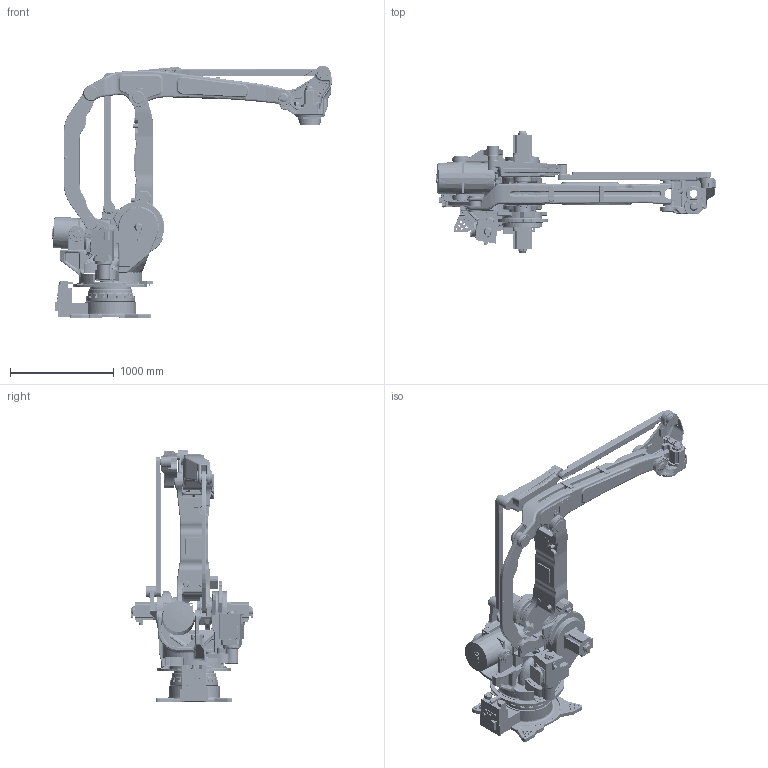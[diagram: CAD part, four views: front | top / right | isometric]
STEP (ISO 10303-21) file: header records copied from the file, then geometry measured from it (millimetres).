
FILE_DESCRIPTION(/* description */ (''),/* implementation_level */ '2;1');
FILE_NAME(/* name */ 'PL190-Rep1.stp',/* time_stamp */ '2021-01-29T10:52:07+01:00',/* author */ (''),/* organization */ (''),/* preprocessor_version */ 'ST-DEVELOPER v16.7',/* originating_system */ 'SIEMENS PLM Software NX 12.0',/* authorisation */ '');
FILE_SCHEMA (('AUTOMOTIVE_DESIGN { 1 0 10303 214 3 1 1 1 }'));
Products named in the file (14): T_VIEW_04LXH190-A00; WRIST_VIEW_04LXH190-A00; LINKE_VIEW_04LXH190-A00; LINKD_VIEW_04LXH190-A00; LINKC_VIEW_04LXH190-A00; U_VIEW_04LXH190-A00; LINKA_VIEW_04LXH190-A00; LINKB_VIEW_04LXH190-A00; BALANCER2_VIEW_04LXH190-A00; BALANCER1_VIEW_04LXH190-A00; L_VIEW_04LXH190-A00; S_VIEW_04LXH190-A00; BASE_VIEW_04LXH190-A00; PL190
Assembly tree (13 placements, depth 2):
  PL190
    BASE_VIEW_04LXH190-A00
    S_VIEW_04LXH190-A00
    L_VIEW_04LXH190-A00
    BALANCER1_VIEW_04LXH190-A00
    BALANCER2_VIEW_04LXH190-A00
    LINKB_VIEW_04LXH190-A00
    LINKA_VIEW_04LXH190-A00
    U_VIEW_04LXH190-A00
    LINKC_VIEW_04LXH190-A00
    LINKD_VIEW_04LXH190-A00
    LINKE_VIEW_04LXH190-A00
    WRIST_VIEW_04LXH190-A00
    T_VIEW_04LXH190-A00
Bounding box: 2699.41 x 1179.82 x 2437.03 mm (x, y, z)
Volume: 431318153.7 mm3; surface area: 15649477.7 mm2
Topology: 13 solids, 15 shells, 7761 faces, 20321 edges, 12347 vertices
Faces by surface type: cylinder 2625, plane 1871, bspline 1412, torus 1218, cone 414, sphere 211, extrusion 10
Entity records: 330567 total; most frequent: CARTESIAN_POINT 145456, ORIENTED_EDGE 39760, DIRECTION 36019, EDGE_CURVE 19880, AXIS2_PLACEMENT_3D 14689, VERTEX_POINT 12347, CIRCLE 8297, EDGE_LOOP 8059
